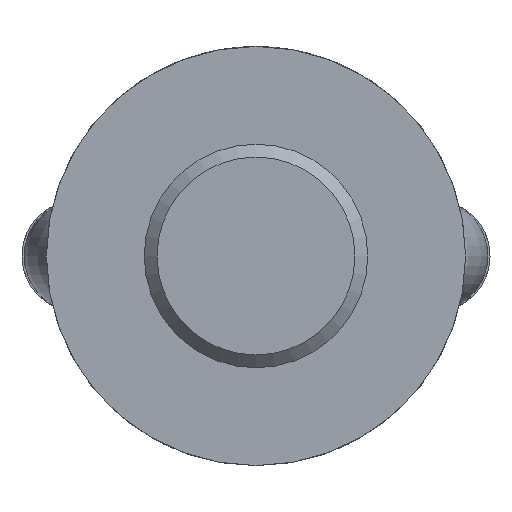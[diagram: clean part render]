
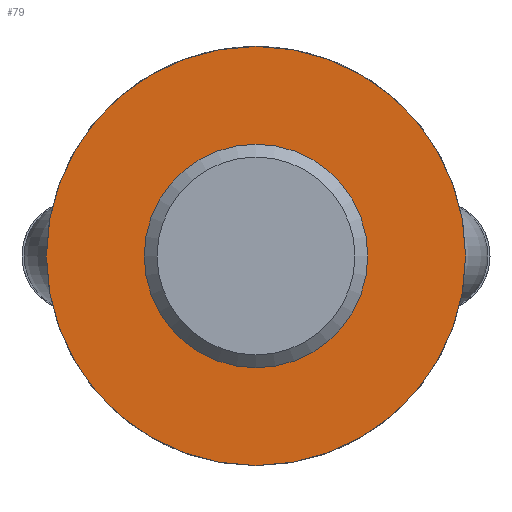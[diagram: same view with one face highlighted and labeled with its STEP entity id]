
A CAD part, front view. The second image highlights one B-rep face of the part: STEP entity #79.
In plain terms, the highlighted planar face has unit normal (0, -1, 0).
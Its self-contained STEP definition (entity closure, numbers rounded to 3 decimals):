
#79 = ADVANCED_FACE( '', ( #115, #116 ), #117, .F. );
#115 = FACE_BOUND( '', #183, .T. );
#116 = FACE_OUTER_BOUND( '', #184, .T. );
#117 = PLANE( '', #185 );
#183 = EDGE_LOOP( '', ( #282 ) );
#184 = EDGE_LOOP( '', ( #283 ) );
#185 = AXIS2_PLACEMENT_3D( '', #284, #285, #286 );
#282 = ORIENTED_EDGE( '', *, *, #454, .T. );
#283 = ORIENTED_EDGE( '', *, *, #455, .T. );
#284 = CARTESIAN_POINT( '', ( 60., 0., 0. ) );
#285 = DIRECTION( '', ( 0., 1., 0. ) );
#286 = DIRECTION( '', ( 0., 0., 1. ) );
#454 = EDGE_CURVE( '', #532, #532, #533, .T. );
#455 = EDGE_CURVE( '', #534, #534, #535, .T. );
#532 = VERTEX_POINT( '', #1009 );
#533 = CIRCLE( '', #1010, 32. );
#534 = VERTEX_POINT( '', #1011 );
#535 = CIRCLE( '', #1012, 60. );
#1009 = CARTESIAN_POINT( '', ( 0., 0., 32. ) );
#1010 = AXIS2_PLACEMENT_3D( '', #1060, #1061, #1062 );
#1011 = CARTESIAN_POINT( '', ( 0., 0., -60. ) );
#1012 = AXIS2_PLACEMENT_3D( '', #1063, #1064, #1065 );
#1060 = CARTESIAN_POINT( '', ( 0., 0., 0. ) );
#1061 = DIRECTION( '', ( 0., 1., 0. ) );
#1062 = DIRECTION( '', ( 0., 0., 1. ) );
#1063 = CARTESIAN_POINT( '', ( 0., 0., 0. ) );
#1064 = DIRECTION( '', ( 0., -1., 0. ) );
#1065 = DIRECTION( '', ( 0., 0., -1. ) );
